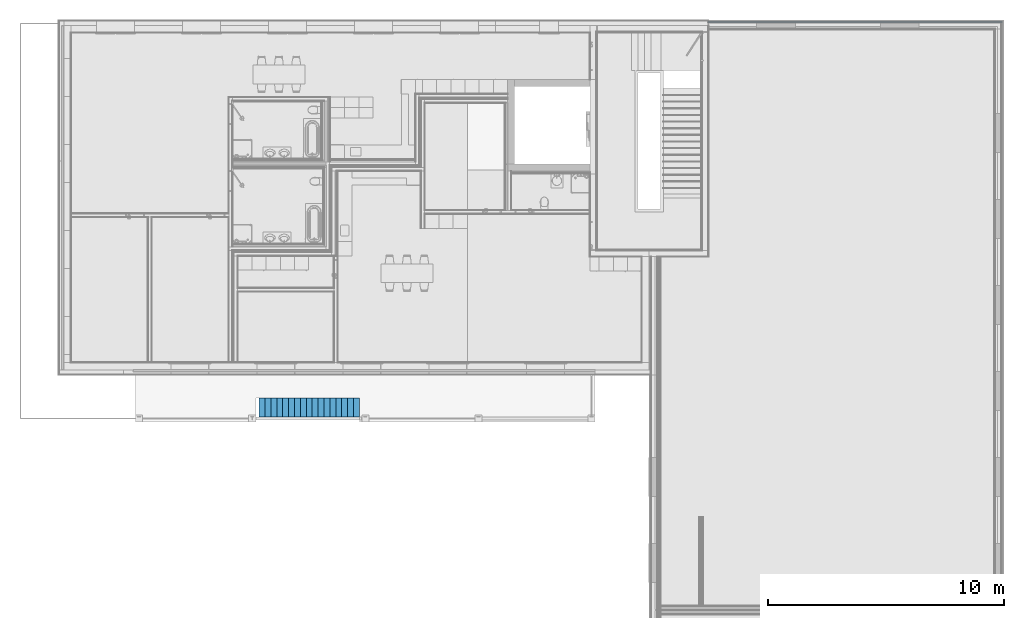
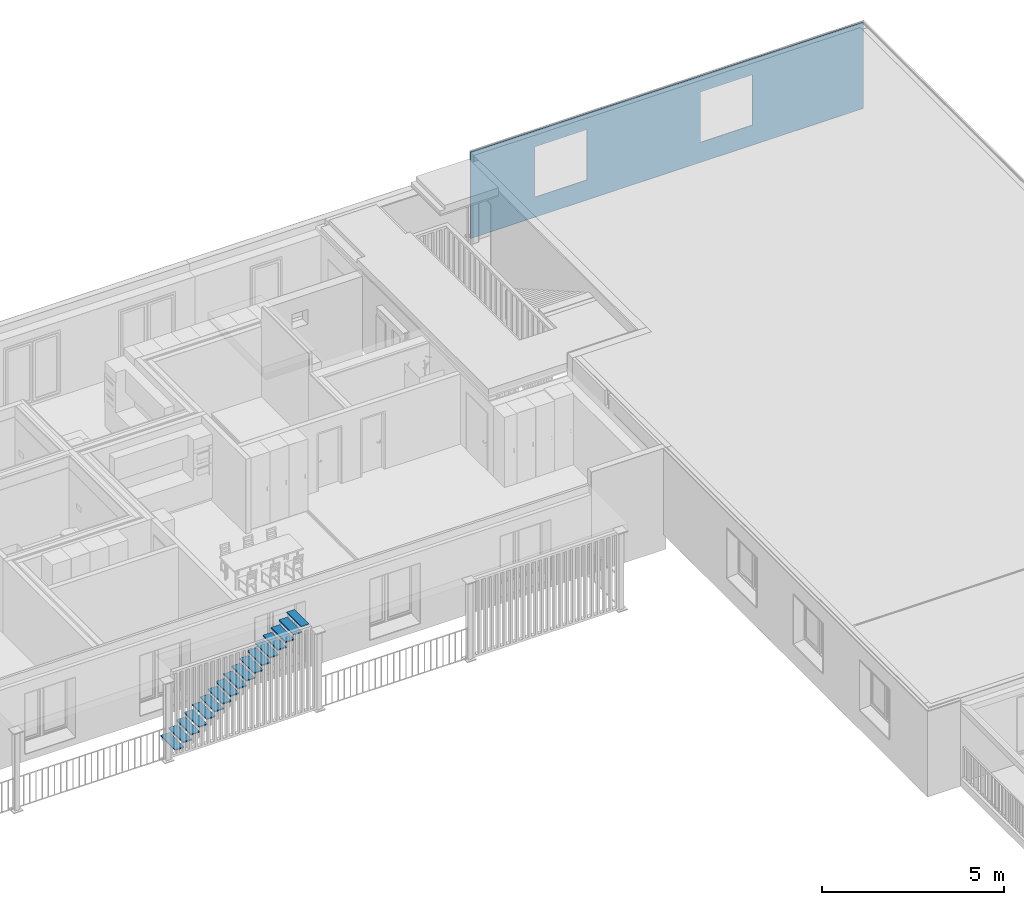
# One storey, part 18 of 34: 18 building element parts, 2 openings, 2 elements without a shape of their own.
"""IFC4 building model written with IfcOpenShell, lengths in millimetres."""

import ifcopenshell
import ifcopenshell.guid

model = None  # the IFC model being written
_history = None  # IfcOwnerHistory: only IFC2X3 demands one
_inside = {}  # id of a spatial element -> (the spatial element, [elements in it])
_under = {}  # id of a project, library or spatial element -> (it, [spatial elements below it])
_declared = {}  # id of a project -> (the project, [libraries it declares])
_typed = {}  # id of a type object -> (the type object, [elements of that type])
_made_of = {}  # id of a material, layer set ... -> (it, [elements and type objects made of it])


def new_model(schema):
    """Start an empty IFC model of exactly this schema.

    Asked for "IFC4X3", IfcOpenShell would pick the latest addendum, in which some entities
    have other attributes; the version numbers below select the first issue.
    IFC2X3 requires an IfcOwnerHistory on every rooted entity: one is made here for all.
    """
    global model, _history
    if schema == "IFC4X3":
        model = ifcopenshell.file(schema_version=(4, 3, 0, 0))
    else:
        model = ifcopenshell.file(schema=schema)
    _inside.clear()
    _under.clear()
    _declared.clear()
    _typed.clear()
    _made_of.clear()
    _history = None
    if model.schema == "IFC2X3":
        org = make("IfcOrganization", Name="unknown")
        user = make(
            "IfcPersonAndOrganization",
            ThePerson=make("IfcPerson", FamilyName="unknown"),
            TheOrganization=org,
        )
        app = make(
            "IfcApplication",
            ApplicationDeveloper=org,
            Version="unknown",
            ApplicationFullName="unknown",
            ApplicationIdentifier="unknown",
        )
        _history = make(
            "IfcOwnerHistory",
            OwningUser=user,
            OwningApplication=app,
            ChangeAction="ADDED",
            CreationDate=0,
        )
    return model


def make(cls, **values):
    """One entity of the class cls with the attributes given. An attribute that is None is left unset."""
    return model.create_entity(
        cls, **{name: value for name, value in values.items() if value is not None}
    )


def entity(cls, *values):
    """Any entity or typed value of the class cls, its attributes in the order of the schema. None: left unset."""
    e = model.create_entity(cls)
    for i, value in enumerate(values):
        if value is not None:
            e[i] = value
    return e


def rooted(cls, **values):
    """An entity with a GlobalId (a new one), such as an element, a storey or a relation."""
    return make(cls, GlobalId=ifcopenshell.guid.new(), OwnerHistory=_history, **values)


def si_unit(unit_type, name, prefix=None):
    """IfcSIUnit, for example si_unit("LENGTHUNIT", "METRE", prefix="MILLI")."""
    return make("IfcSIUnit", UnitType=unit_type, Prefix=prefix, Name=name)


def converted_unit(unit_type, name, factor, base, dimensions=None, offset=None):
    """IfcConversionBasedUnit, such as the inch: factor (a typed value) times the base unit."""
    return make(
        "IfcConversionBasedUnit"
        if offset is None
        else "IfcConversionBasedUnitWithOffset",
        ConversionOffset=offset,
        Dimensions=None
        if dimensions is None
        else entity("IfcDimensionalExponents", *dimensions),
        UnitType=unit_type,
        Name=name,
        ConversionFactor=make(
            "IfcMeasureWithUnit", ValueComponent=factor, UnitComponent=base
        ),
    )


def derived_unit(unit_type, elements):
    """IfcDerivedUnit: a product of units, each with its exponent."""
    return make(
        "IfcDerivedUnit",
        Elements=[
            make("IfcDerivedUnitElement", Unit=unit, Exponent=power)
            for unit, power in elements
        ],
        UnitType=unit_type,
    )


def assignment(units):
    """IfcUnitAssignment: the units of a project."""
    return None if units is None else make("IfcUnitAssignment", Units=units)


def point(xyz):
    """IfcCartesianPoint."""
    return None if xyz is None else make("IfcCartesianPoint", Coordinates=xyz)


def direction(xyz):
    """IfcDirection."""
    return None if xyz is None else make("IfcDirection", DirectionRatios=xyz)


def frame(location, z_axis=None, x_axis=None):
    """IfcAxis2Placement3D, a coordinate frame: its origin and axes. An axis left out is left unset."""
    return make(
        "IfcAxis2Placement3D",
        Location=point(location),
        Axis=direction(z_axis),
        RefDirection=direction(x_axis),
    )


def origin_with_axes():
    """The frame at (0, 0, 0) with the z axis (0, 0, 1) and the x axis (1, 0, 0) written out."""
    return frame((0.0, 0.0, 0.0), z_axis=(0.0, 0.0, 1.0), x_axis=(1.0, 0.0, 0.0))


def place(relative_to, where):
    """IfcLocalPlacement: puts the frame where relative to a parent placement (None: the world)."""
    return make(
        "IfcLocalPlacement", PlacementRelTo=relative_to, RelativePlacement=where
    )


def context(
    kind, dimensions, precision=None, world=None, true_north=None, identifier=None
):
    """IfcGeometricRepresentationContext, for example the 3D "Model" context."""
    return make(
        "IfcGeometricRepresentationContext",
        ContextIdentifier=identifier,
        ContextType=kind,
        CoordinateSpaceDimension=dimensions,
        Precision=precision,
        WorldCoordinateSystem=world,
        TrueNorth=true_north,
    )


def subcontext(parent, identifier, kind, view, scale=None):
    """IfcGeometricRepresentationSubContext, for example "Body" below "Model"."""
    return make(
        "IfcGeometricRepresentationSubContext",
        ContextIdentifier=identifier,
        ContextType=kind,
        ParentContext=parent,
        TargetScale=scale,
        TargetView=view,
    )


def project(units=None, contexts=None):
    """IfcProject with its units and contexts."""
    return rooted(
        "IfcProject",
        Name="project",
        RepresentationContexts=contexts,
        UnitsInContext=assignment(units),
    )


def spatial(cls, under=None, at=None, **own):
    """A site, building, storey or space (cls), placed at a placement, below another one or the project."""
    s = rooted(cls, ObjectPlacement=at, **own)
    if under is not None:
        _under.setdefault(under.id(), (under, []))[1].append(s)
    return s


def point_list(points):
    """IfcCartesianPointList2D or 3D."""
    cls = (
        "IfcCartesianPointList2D" if len(points[0]) == 2 else "IfcCartesianPointList3D"
    )
    return make(cls, CoordList=points)


def polygons(points, faces, closed=None, point_numbers=None):
    """IfcPolygonalFaceSet: a face is its outer loop, then its inner loops; points numbered from 1."""
    made = []
    for loops in faces:
        if len(loops) == 1:
            made.append(make("IfcIndexedPolygonalFace", CoordIndex=loops[0]))
        else:
            made.append(
                make(
                    "IfcIndexedPolygonalFaceWithVoids",
                    CoordIndex=loops[0],
                    InnerCoordIndices=loops[1:],
                )
            )
    return make(
        "IfcPolygonalFaceSet",
        Coordinates=point_list(points),
        Closed=closed,
        Faces=made,
        PnIndex=point_numbers,
    )


def shape(context_of_items, identifier, shape_type, items):
    """IfcShapeRepresentation: the items that make up one representation, for example the "Body"."""
    return make(
        "IfcShapeRepresentation",
        ContextOfItems=context_of_items,
        RepresentationIdentifier=identifier,
        RepresentationType=shape_type,
        Items=items,
    )


def material(Name=None, Category=None):
    """IfcMaterial."""
    return make("IfcMaterial", Name=Name, Category=Category)


def made_of(thing, what):
    """Note that an element or type object is made of a material, layer set ...; save() writes the relation."""
    if what is not None:
        _made_of.setdefault(what.id(), (what, []))[1].append(thing)
    return thing


def type_object(cls, material=None, **own):
    """A type object (cls), such as IfcWallType, which elements share."""
    return made_of(rooted(cls, **own), material)


def element(
    cls,
    number,
    at=None,
    inside=None,
    cuts=None,
    type_object=None,
    material=None,
    context=None,
    identifier="Body",
    shape_type=None,
    held_by="IfcProductDefinitionShape",
    body=None,
    shapes=None,
    **own,
):
    """One element of the class cls, such as IfcWall. Its Tag is "e" and its number.

    at: its placement. inside: the storey or other place that contains it. cuts: it is an
    opening in that element (IfcRelVoidsElement). A single representation is given by context,
    identifier, shape_type and body (its items); several are given by shapes. held_by: the class
    of the entity that holds the representations. save() writes the other relations.
    """
    e = rooted(cls, Tag="e%d" % number, ObjectPlacement=at, **own)
    if body is not None:
        shapes = [shape(context, identifier, shape_type, body)]
    if shapes is not None:
        e.Representation = make(held_by, Representations=shapes)
    if inside is not None:
        _inside.setdefault(inside.id(), (inside, []))[1].append(e)
    if cuts is not None:
        rooted(
            "IfcRelVoidsElement", RelatingBuildingElement=cuts, RelatedOpeningElement=e
        )
    if type_object is not None:
        _typed.setdefault(type_object.id(), (type_object, []))[1].append(e)
    return made_of(e, material)


def aggregate(whole, parts):
    """IfcRelAggregates: a whole, such as a stair, and the parts it consists of."""
    return rooted("IfcRelAggregates", RelatingObject=whole, RelatedObjects=parts)


def save(model, path):
    """Write the relations noted so far, then the file.

    IfcRelAggregates (storeys below a building ...), IfcRelContainedInSpatialStructure (elements
    in a storey), IfcRelDefinesByType, IfcRelAssociatesMaterial and IfcRelDeclares: one each for
    every whole, place, type object, material and project.
    """
    for whole, parts in _under.values():
        aggregate(whole, parts)
    for where, things in _inside.values():
        rooted(
            "IfcRelContainedInSpatialStructure",
            RelatedElements=things,
            RelatingStructure=where,
        )
    for kind, things in _typed.values():
        rooted("IfcRelDefinesByType", RelatedObjects=things, RelatingType=kind)
    for what, things in _made_of.values():
        rooted("IfcRelAssociatesMaterial", RelatedObjects=things, RelatingMaterial=what)
    for by, libraries in _declared.values():
        rooted("IfcRelDeclares", RelatingContext=by, RelatedDefinitions=libraries)
    model.write(path)


model = new_model("IFC4")

# Units and contexts
model_context = context("Model", 3, precision=0.01, world=origin_with_axes(), true_north=direction((0.0, 1.0)))
body_context = subcontext(model_context, "Body", "Model", "MODEL_VIEW")
ifc_project = project(units=[si_unit("LENGTHUNIT", "METRE", prefix="MILLI"), si_unit("AREAUNIT", "SQUARE_METRE"), si_unit("VOLUMEUNIT", "CUBIC_METRE"), converted_unit("PLANEANGLEUNIT", "DEGREE", entity("IfcPlaneAngleMeasure", 0.0174532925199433), si_unit("PLANEANGLEUNIT", "RADIAN"), dimensions=[0, 0, 0, 0, 0, 0, 0]), converted_unit("TIMEUNIT", "Year", entity("IfcTimeMeasure", 31557600.0), si_unit("TIMEUNIT", "SECOND"), dimensions=[0, 0, 1, 0, 0, 0, 0]), si_unit("MASSUNIT", "GRAM", prefix="KILO"), si_unit("THERMODYNAMICTEMPERATUREUNIT", "DEGREE_CELSIUS"), si_unit("LUMINOUSINTENSITYUNIT", "LUMEN"), si_unit("ENERGYUNIT", "JOULE", prefix="MEGA"), derived_unit("THERMALCONDUCTANCEUNIT", [(si_unit("POWERUNIT", "WATT"), 1), (si_unit("LENGTHUNIT", "METRE"), -1), (si_unit("THERMODYNAMICTEMPERATUREUNIT", "KELVIN"), -1)]), derived_unit("SPECIFICHEATCAPACITYUNIT", [(si_unit("ENERGYUNIT", "JOULE"), 1), (si_unit("MASSUNIT", "GRAM", prefix="KILO"), -1), (si_unit("THERMODYNAMICTEMPERATUREUNIT", "KELVIN"), -1)]), derived_unit("MASSDENSITYUNIT", [(si_unit("MASSUNIT", "GRAM", prefix="KILO"), 1), (si_unit("VOLUMEUNIT", "CUBIC_METRE"), -1)])], contexts=[model_context])

# Site, building, storey
site_placement = place(None, origin_with_axes())
site = spatial("IfcSite", under=ifc_project, at=site_placement, Name="Gelände", CompositionType="ELEMENT")
building_placement = place(site_placement, origin_with_axes())
building = spatial("IfcBuilding", under=site, at=building_placement, Name="Gebäude", CompositionType="ELEMENT")
storey_placement = place(building_placement, frame((0.0, 0.0, 5799.999999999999), z_axis=(0.0, 0.0, 1.0), x_axis=(1.0, 0.0, 0.0)))
storey = spatial("IfcBuildingStorey", under=building, at=storey_placement, Name="2.OG", CompositionType="ELEMENT", Elevation=5800.0)

# Curtain wall, openings, building element part
curtain_wall_type = type_object("IfcCurtainWallType", Name="Fassade Typ 02 - Vertikale Schalung 71", PredefinedType="NOTDEFINED")
curtain_wall_placement = place(storey_placement, frame((32928.99744477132, 37947.59728131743, 500.0000000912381), z_axis=(0.0, 0.0, 1.0), x_axis=(-1.0, 0.0, 0.0)))
curtain_wall = element("IfcCurtainWall", 1, at=curtain_wall_placement, inside=storey, type_object=curtain_wall_type, Name="Wand-014", PredefinedType="NOTDEFINED")
opening_1_placement = place(curtain_wall_placement, frame((4391.999999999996, 0.0, 674.9999999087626), z_axis=(0.0, 0.0, 1.0), x_axis=(1.0, 0.0, 0.0)))
element("IfcOpeningElement", 2, at=opening_1_placement, cuts=curtain_wall, Name="Fenster-004", context=body_context, identifier="Reference", shape_type="Tessellation", body=[
    polygons([(-821.0000000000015, -0.9999999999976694, 1690.0), (-821.0000000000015, -0.9999999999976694, 0.0), (821.0000000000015, -0.9999999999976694, 0.0), (821.0000000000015, -0.9999999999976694, 1690.0), (-821.0000000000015, 71.99999999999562, 1690.0), (-821.0000000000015, 71.99999999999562, 0.0), (821.0000000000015, 71.99999999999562, 0.0), (821.0000000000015, 71.99999999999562, 1690.0)], [[[1, 2, 3, 4]], [[5, 6, 2, 1]], [[6, 7, 3, 2]], [[7, 8, 4, 3]], [[8, 5, 1, 4]], [[7, 6, 5, 8]]], closed=True),
])
opening_2_placement = place(curtain_wall_placement, frame((9633.999999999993, 0.0, 674.9999999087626), z_axis=(0.0, 0.0, 1.0), x_axis=(1.0, 0.0, 0.0)))
element("IfcOpeningElement", 3, at=opening_2_placement, cuts=curtain_wall, Name="Fenster-004", context=body_context, identifier="Reference", shape_type="Tessellation", body=[
    polygons([(-821.0000000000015, -0.9999999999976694, 1690.0), (-821.0000000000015, -0.9999999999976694, 0.0), (821.0000000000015, -0.9999999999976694, 0.0), (821.0000000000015, -0.9999999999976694, 1690.0), (-821.0000000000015, 71.99999999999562, 1690.0), (-821.0000000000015, 71.99999999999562, 0.0), (821.0000000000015, 71.99999999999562, 0.0), (821.0000000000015, 71.99999999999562, 1690.0)], [[[1, 2, 3, 4]], [[5, 6, 2, 1]], [[6, 7, 3, 2]], [[7, 8, 4, 3]], [[8, 5, 1, 4]], [[7, 6, 5, 8]]], closed=True),
])
ifc_material_1 = material(Name="Lattenrost vertikal")
building_element_part_1_placement = place(curtain_wall_placement, origin_with_axes())
building_element_part_1 = element("IfcBuildingElementPart", 4, at=building_element_part_1_placement, material=ifc_material_1, Name="Lattenrost vertikal", PredefinedType="NOTDEFINED", context=body_context, shape_type="Tessellation", body=[
    polygons([(71.00000085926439, 71.00001874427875, 9.685926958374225), (45.99999420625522, 46.00000579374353, 7.21799687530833), (12499.9999859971, 45.99999999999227, 7.217686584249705), (12499.99997969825, 71.00314988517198, 9.685926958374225), (45.99999999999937, 70.99999999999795, 7.217997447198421), (45.99999999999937, 45.99999999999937, 0.0), (12500.00000000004, 45.99999999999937, 0.0), (12500.00000000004, 70.99999999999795, 0.0), (45.99999999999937, 70.99999999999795, 0.0)], [[[1, 2, 3, 4]], [[5, 2, 1]], [[3, 2, 6, 7]], [[4, 3, 7, 8]], [[5, 1, 4, 8, 9]], [[2, 5, 9, 6]], [[9, 8, 7, 6]]], closed=True),
    polygons([(45.99999999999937, 70.99999999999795, 10.23497066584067), (45.99999999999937, 70.99999999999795, 2899.99999990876), (12500.00000000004, 70.99999999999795, 2899.99999990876), (12499.99997969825, 71.00314988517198, 42.69563016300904), (71.00000085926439, 71.00001874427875, 42.69563016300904), (68.29999970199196, 70.99999999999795, 42.69563016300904), (68.29999970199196, 70.99999999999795, 12.52688014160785), (5212.999999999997, 70.99999999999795, 2364.999999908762), (3570.999999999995, 70.99999999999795, 2364.999999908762), (3570.999999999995, 70.99999999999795, 674.9999999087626), (5212.999999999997, 70.99999999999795, 674.9999999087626), (10454.99999999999, 71.00314988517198, 674.9999999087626), (10454.99999999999, 71.00314988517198, 2364.999999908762), (8812.99999999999, 71.00314988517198, 2364.999999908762), (8812.99999999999, 71.00314988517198, 674.9999999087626), (45.99999999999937, 45.99999999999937, 2899.99999990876), (45.99999420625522, 46.00000579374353, 10.23497007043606), (12500.00000000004, 45.99999999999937, 2899.99999990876), (12499.99998037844, 68.30314872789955, 42.69563016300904), (12499.9999859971, 45.99999999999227, 10.23464702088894), (12499.99998037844, 68.30314872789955, 12.52688014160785), (68.29999970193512, 68.30001690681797, 42.69563016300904), (68.29999970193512, 68.30001690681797, 12.52688014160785), (3570.999999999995, 46.00000579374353, 2364.999999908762), (5212.999999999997, 46.00000579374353, 2364.999999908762), (3570.999999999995, 46.00000579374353, 674.9999999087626), (5212.999999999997, 46.00000579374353, 674.9999999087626), (10454.99999999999, 45.99999999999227, 674.9999999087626), (10454.99999999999, 45.99999999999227, 2364.999999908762), (8812.99999999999, 45.99999999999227, 2364.999999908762), (8812.99999999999, 45.99999999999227, 674.9999999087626)], [[[1, 2, 3, 4, 5, 6, 7], [8, 9, 10, 11], [12, 13, 14, 15]], [[16, 2, 1, 17]], [[3, 2, 16, 18]], [[19, 4, 3, 18, 20, 21]], [[19, 22, 6, 5, 4]], [[7, 6, 22, 23]], [[1, 7, 23, 17]], [[24, 9, 8, 25]], [[26, 10, 9, 24]], [[27, 11, 10, 26]], [[25, 8, 11, 27]], [[28, 29, 13, 12]], [[29, 30, 14, 13]], [[30, 31, 15, 14]], [[31, 28, 12, 15]], [[18, 16, 17, 20], [26, 24, 25, 27], [28, 31, 30, 29]], [[21, 20, 17, 23]], [[19, 21, 23, 22]]], closed=True),
])
aggregate(curtain_wall, [building_element_part_1])

# Stair, building element parts
stair_type = type_object("IfcStairType", Name="Treppentyp 01 - Metall - Holz", PredefinedType="NOTDEFINED")
stair_placement = place(storey_placement, frame((967.6586056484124, 21069.06207956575, 0.0), z_axis=(0.0, 0.0, 1.0), x_axis=(-0.01941475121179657, 0.9998115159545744, 0.0)))
stair = element("IfcStair", 5, at=stair_placement, inside=storey, type_object=stair_type, Name="Treppe-001", PredefinedType="NOTDEFINED")
ifc_material_2 = material(Name="Massivholz")
building_element_part_2_placement = place(stair_placement, origin_with_axes())
building_element_part_2 = element("IfcBuildingElementPart", 6, at=building_element_part_2_placement, material=ifc_material_2, Name="Massivholz", PredefinedType="NOTDEFINED", context=body_context, shape_type="Tessellation", body=[
    polygons([(879.8492127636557, -455.9051972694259, 130.5882352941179), (79.9999999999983, -440.3733962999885, 130.5882352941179), (79.9999999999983, -440.3733962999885, 170.5882352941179), (879.8492127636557, -455.9051972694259, 170.5882352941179), (874.4130824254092, -735.8524216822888, 130.5882352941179), (74.56386958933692, -720.3206244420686, 130.5882352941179), (74.56386958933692, -720.3206244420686, 170.5882352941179), (874.4130824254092, -735.8524216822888, 170.5882352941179)], [[[1, 2, 3, 4]], [[1, 5, 6, 2]], [[2, 6, 7, 3]], [[4, 3, 7, 8]], [[5, 1, 4, 8]], [[6, 5, 8, 7]]], closed=True),
])
building_element_part_3_placement = place(stair_placement, origin_with_axes())
building_element_part_3 = element("IfcBuildingElementPart", 7, at=building_element_part_3_placement, material=ifc_material_2, Name="Massivholz", PredefinedType="NOTDEFINED", context=body_context, shape_type="Tessellation", body=[
    polygons([(874.9955249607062, -705.8580762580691, 301.1764705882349), (75.14631219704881, -690.3262752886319, 301.1764705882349), (75.14631219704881, -690.3262752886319, 341.176470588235), (874.9955249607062, -705.8580762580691, 341.176470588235), (869.5593946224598, -985.8053006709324, 301.1764705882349), (69.71018178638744, -970.2735034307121, 301.1764705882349), (69.71018178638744, -970.2735034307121, 341.176470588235), (869.5593946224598, -985.8053006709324, 341.176470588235)], [[[1, 2, 3, 4]], [[1, 5, 6, 2]], [[2, 6, 7, 3]], [[4, 3, 7, 8]], [[5, 1, 4, 8]], [[6, 5, 8, 7]]], closed=True),
])
building_element_part_4_placement = place(stair_placement, origin_with_axes())
building_element_part_4 = element("IfcBuildingElementPart", 8, at=building_element_part_4_placement, material=ifc_material_2, Name="Massivholz", PredefinedType="NOTDEFINED", context=body_context, shape_type="Tessellation", body=[
    polygons([(870.1418371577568, -955.8109552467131, 471.7647058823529), (70.29262439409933, -940.2791542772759, 471.7647058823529), (70.29262439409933, -940.2791542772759, 511.7647058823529), (870.1418371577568, -955.8109552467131, 511.7647058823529), (864.7057068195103, -1235.758179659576, 471.7647058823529), (64.85649398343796, -1220.226382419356, 471.7647058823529), (64.85649398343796, -1220.226382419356, 511.7647058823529), (864.7057068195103, -1235.758179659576, 511.7647058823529)], [[[1, 2, 3, 4]], [[1, 5, 6, 2]], [[2, 6, 7, 3]], [[4, 3, 7, 8]], [[5, 1, 4, 8]], [[6, 5, 8, 7]]], closed=True),
])
building_element_part_5_placement = place(stair_placement, origin_with_axes())
building_element_part_5 = element("IfcBuildingElementPart", 9, at=building_element_part_5_placement, material=ifc_material_2, Name="Massivholz", PredefinedType="NOTDEFINED", context=body_context, shape_type="Tessellation", body=[
    polygons([(865.2881493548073, -1205.763834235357, 642.3529411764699), (65.43893659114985, -1190.232033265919, 642.3529411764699), (65.43893659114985, -1190.232033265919, 682.3529411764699), (865.2881493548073, -1205.763834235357, 682.3529411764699), (859.8520190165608, -1485.71105864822, 642.3529411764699), (60.00280618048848, -1470.179261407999, 642.3529411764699), (60.00280618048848, -1470.179261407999, 682.3529411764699), (859.8520190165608, -1485.71105864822, 682.3529411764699)], [[[1, 2, 3, 4]], [[1, 5, 6, 2]], [[2, 6, 7, 3]], [[4, 3, 7, 8]], [[5, 1, 4, 8]], [[6, 5, 8, 7]]], closed=True),
])
building_element_part_6_placement = place(stair_placement, origin_with_axes())
building_element_part_6 = element("IfcBuildingElementPart", 10, at=building_element_part_6_placement, material=ifc_material_2, Name="Massivholz", PredefinedType="NOTDEFINED", context=body_context, shape_type="Tessellation", body=[
    polygons([(860.4344615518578, -1455.716713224, 812.9411764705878), (60.58524878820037, -1440.184912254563, 812.9411764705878), (60.58524878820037, -1440.184912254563, 852.9411764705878), (860.4344615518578, -1455.716713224, 852.9411764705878), (854.9983312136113, -1735.663937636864, 812.9411764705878), (55.149118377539, -1720.132140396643, 812.9411764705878), (55.149118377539, -1720.132140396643, 852.9411764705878), (854.9983312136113, -1735.663937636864, 852.9411764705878)], [[[1, 2, 3, 4]], [[1, 5, 6, 2]], [[2, 6, 7, 3]], [[4, 3, 7, 8]], [[5, 1, 4, 8]], [[6, 5, 8, 7]]], closed=True),
])
building_element_part_7_placement = place(stair_placement, origin_with_axes())
building_element_part_7 = element("IfcBuildingElementPart", 11, at=building_element_part_7_placement, material=ifc_material_2, Name="Massivholz", PredefinedType="NOTDEFINED", context=body_context, shape_type="Tessellation", body=[
    polygons([(855.5807737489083, -1705.669592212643, 983.5294117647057), (55.73156098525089, -1690.137791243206, 983.5294117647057), (55.73156098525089, -1690.137791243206, 1023.529411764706), (855.5807737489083, -1705.669592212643, 1023.529411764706), (850.1446434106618, -1985.616816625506, 983.5294117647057), (50.29543057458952, -1970.085019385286, 983.5294117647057), (50.29543057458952, -1970.085019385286, 1023.529411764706), (850.1446434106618, -1985.616816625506, 1023.529411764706)], [[[1, 2, 3, 4]], [[1, 5, 6, 2]], [[2, 6, 7, 3]], [[4, 3, 7, 8]], [[5, 1, 4, 8]], [[6, 5, 8, 7]]], closed=True),
])
building_element_part_8_placement = place(stair_placement, origin_with_axes())
building_element_part_8 = element("IfcBuildingElementPart", 12, at=building_element_part_8_placement, material=ifc_material_2, Name="Massivholz", PredefinedType="NOTDEFINED", context=body_context, shape_type="Tessellation", body=[
    polygons([(850.7270859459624, -1955.622471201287, 1154.117647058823), (50.87787318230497, -1940.090670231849, 1154.117647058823), (50.87787318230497, -1940.090670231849, 1194.117647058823), (850.7270859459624, -1955.622471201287, 1194.117647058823), (845.2909556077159, -2235.56969561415, 1154.117647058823), (45.44174277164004, -2220.03789837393, 1154.117647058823), (45.44174277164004, -2220.03789837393, 1194.117647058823), (845.2909556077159, -2235.56969561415, 1194.117647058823)], [[[1, 2, 3, 4]], [[1, 5, 6, 2]], [[2, 6, 7, 3]], [[4, 3, 7, 8]], [[5, 1, 4, 8]], [[6, 5, 8, 7]]], closed=True),
])
building_element_part_9_placement = place(stair_placement, origin_with_axes())
building_element_part_9 = element("IfcBuildingElementPart", 13, at=building_element_part_9_placement, material=ifc_material_2, Name="Massivholz", PredefinedType="NOTDEFINED", context=body_context, shape_type="Tessellation", body=[
    polygons([(845.8733981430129, -2205.57535018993, 1324.705882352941), (46.02418537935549, -2190.043549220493, 1324.705882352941), (46.02418537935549, -2190.043549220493, 1364.705882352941), (845.8733981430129, -2205.57535018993, 1364.705882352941), (840.4372678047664, -2485.522574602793, 1324.705882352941), (40.58805496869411, -2469.990777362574, 1324.705882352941), (40.58805496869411, -2469.990777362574, 1364.705882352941), (840.4372678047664, -2485.522574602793, 1364.705882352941)], [[[1, 2, 3, 4]], [[1, 5, 6, 2]], [[2, 6, 7, 3]], [[4, 3, 7, 8]], [[5, 1, 4, 8]], [[6, 5, 8, 7]]], closed=True),
])
building_element_part_10_placement = place(stair_placement, origin_with_axes())
building_element_part_10 = element("IfcBuildingElementPart", 14, at=building_element_part_10_placement, material=ifc_material_2, Name="Massivholz", PredefinedType="NOTDEFINED", context=body_context, shape_type="Tessellation", body=[
    polygons([(841.0197103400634, -2455.528229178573, 1495.294117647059), (41.17049757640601, -2439.996428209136, 1495.294117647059), (41.17049757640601, -2439.996428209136, 1535.294117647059), (841.0197103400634, -2455.528229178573, 1535.294117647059), (835.5835800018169, -2735.475453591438, 1495.294117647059), (35.73436716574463, -2719.943656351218, 1495.294117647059), (35.73436716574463, -2719.943656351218, 1535.294117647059), (835.5835800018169, -2735.475453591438, 1535.294117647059)], [[[1, 2, 3, 4]], [[1, 5, 6, 2]], [[2, 6, 7, 3]], [[4, 3, 7, 8]], [[5, 1, 4, 8]], [[6, 5, 8, 7]]], closed=True),
])
building_element_part_11_placement = place(stair_placement, origin_with_axes())
building_element_part_11 = element("IfcBuildingElementPart", 15, at=building_element_part_11_placement, material=ifc_material_2, Name="Massivholz", PredefinedType="NOTDEFINED", context=body_context, shape_type="Tessellation", body=[
    polygons([(836.1660225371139, -2705.481108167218, 1665.882352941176), (36.31680977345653, -2689.94930719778, 1665.882352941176), (36.31680977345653, -2689.94930719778, 1705.882352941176), (836.1660225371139, -2705.481108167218, 1705.882352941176), (830.7298921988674, -2985.428332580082, 1665.882352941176), (30.88067936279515, -2969.896535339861, 1665.882352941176), (30.88067936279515, -2969.896535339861, 1705.882352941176), (830.7298921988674, -2985.428332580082, 1705.882352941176)], [[[1, 2, 3, 4]], [[1, 5, 6, 2]], [[2, 6, 7, 3]], [[4, 3, 7, 8]], [[5, 1, 4, 8]], [[6, 5, 8, 7]]], closed=True),
])
building_element_part_12_placement = place(stair_placement, origin_with_axes())
building_element_part_12 = element("IfcBuildingElementPart", 16, at=building_element_part_12_placement, material=ifc_material_2, Name="Massivholz", PredefinedType="NOTDEFINED", context=body_context, shape_type="Tessellation", body=[
    polygons([(831.3123347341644, -2955.433987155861, 1836.470588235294), (31.46312197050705, -2939.902186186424, 1836.470588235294), (31.46312197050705, -2939.902186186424, 1876.470588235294), (831.3123347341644, -2955.433987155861, 1876.470588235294), (825.876204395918, -3235.381211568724, 1836.470588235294), (26.02699155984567, -3219.849414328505, 1836.470588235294), (26.02699155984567, -3219.849414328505, 1876.470588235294), (825.876204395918, -3235.381211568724, 1876.470588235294)], [[[1, 2, 3, 4]], [[1, 5, 6, 2]], [[2, 6, 7, 3]], [[4, 3, 7, 8]], [[5, 1, 4, 8]], [[6, 5, 8, 7]]], closed=True),
])
building_element_part_13_placement = place(stair_placement, origin_with_axes())
building_element_part_13 = element("IfcBuildingElementPart", 17, at=building_element_part_13_placement, material=ifc_material_2, Name="Massivholz", PredefinedType="NOTDEFINED", context=body_context, shape_type="Tessellation", body=[
    polygons([(826.458646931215, -3205.386866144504, 2007.058823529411), (26.60943416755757, -3189.855065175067, 2007.058823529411), (26.60943416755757, -3189.855065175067, 2047.058823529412), (826.458646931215, -3205.386866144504, 2047.058823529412), (821.0225165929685, -3485.334090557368, 2007.058823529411), (21.17330375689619, -3469.802293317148, 2007.058823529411), (21.17330375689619, -3469.802293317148, 2047.058823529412), (821.0225165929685, -3485.334090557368, 2047.058823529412)], [[[1, 2, 3, 4]], [[1, 5, 6, 2]], [[2, 6, 7, 3]], [[4, 3, 7, 8]], [[5, 1, 4, 8]], [[6, 5, 8, 7]]], closed=True),
])
building_element_part_14_placement = place(stair_placement, origin_with_axes())
building_element_part_14 = element("IfcBuildingElementPart", 18, at=building_element_part_14_placement, material=ifc_material_2, Name="Massivholz", PredefinedType="NOTDEFINED", context=body_context, shape_type="Tessellation", body=[
    polygons([(821.6049591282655, -3455.339745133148, 2177.647058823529), (21.75574636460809, -3439.807944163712, 2177.647058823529), (21.75574636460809, -3439.807944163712, 2217.647058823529), (821.6049591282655, -3455.339745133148, 2217.647058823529), (816.168828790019, -3735.286969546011, 2177.647058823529), (16.31961595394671, -3719.755172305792, 2177.647058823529), (16.31961595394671, -3719.755172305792, 2217.647058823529), (816.168828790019, -3735.286969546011, 2217.647058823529)], [[[1, 2, 3, 4]], [[1, 5, 6, 2]], [[2, 6, 7, 3]], [[4, 3, 7, 8]], [[5, 1, 4, 8]], [[6, 5, 8, 7]]], closed=True),
])
building_element_part_15_placement = place(stair_placement, origin_with_axes())
building_element_part_15 = element("IfcBuildingElementPart", 19, at=building_element_part_15_placement, material=ifc_material_2, Name="Massivholz", PredefinedType="NOTDEFINED", context=body_context, shape_type="Tessellation", body=[
    polygons([(816.751271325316, -3705.292624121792, 2348.235294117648), (16.90205856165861, -3689.760823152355, 2348.235294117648), (16.90205856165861, -3689.760823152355, 2388.235294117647), (816.751271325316, -3705.292624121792, 2388.235294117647), (811.3151409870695, -3985.239848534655, 2348.235294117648), (11.46592815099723, -3969.708051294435, 2348.235294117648), (11.46592815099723, -3969.708051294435, 2388.235294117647), (811.3151409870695, -3985.239848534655, 2388.235294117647)], [[[1, 2, 3, 4]], [[1, 5, 6, 2]], [[2, 6, 7, 3]], [[4, 3, 7, 8]], [[5, 1, 4, 8]], [[6, 5, 8, 7]]], closed=True),
])
building_element_part_16_placement = place(stair_placement, origin_with_axes())
building_element_part_16 = element("IfcBuildingElementPart", 20, at=building_element_part_16_placement, material=ifc_material_2, Name="Massivholz", PredefinedType="NOTDEFINED", context=body_context, shape_type="Tessellation", body=[
    polygons([(811.8975835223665, -3955.245503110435, 2518.823529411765), (12.04837075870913, -3939.713702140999, 2518.823529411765), (12.04837075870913, -3939.713702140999, 2558.823529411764), (811.8975835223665, -3955.245503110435, 2558.823529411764), (806.46145318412, -4235.192727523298, 2518.823529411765), (6.612240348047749, -4219.660930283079, 2518.823529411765), (6.612240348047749, -4219.660930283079, 2558.823529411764), (806.46145318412, -4235.192727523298, 2558.823529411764)], [[[1, 2, 3, 4]], [[1, 5, 6, 2]], [[2, 6, 7, 3]], [[4, 3, 7, 8]], [[5, 1, 4, 8]], [[6, 5, 8, 7]]], closed=True),
])
building_element_part_17_placement = place(stair_placement, origin_with_axes())
building_element_part_17 = element("IfcBuildingElementPart", 21, at=building_element_part_17_placement, material=ifc_material_2, Name="Massivholz", PredefinedType="NOTDEFINED", context=body_context, shape_type="Tessellation", body=[
    polygons([(807.043895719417, -4205.198382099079, 2689.411764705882), (7.194682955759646, -4189.666581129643, 2689.411764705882), (7.194682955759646, -4189.666581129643, 2729.411764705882), (807.043895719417, -4205.198382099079, 2729.411764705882), (801.6077653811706, -4485.145606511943, 2689.411764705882), (1.758552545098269, -4469.613809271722, 2689.411764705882), (1.758552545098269, -4469.613809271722, 2729.411764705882), (801.6077653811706, -4485.145606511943, 2729.411764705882)], [[[1, 2, 3, 4]], [[1, 5, 6, 2]], [[2, 6, 7, 3]], [[4, 3, 7, 8]], [[5, 1, 4, 8]], [[6, 5, 8, 7]]], closed=True),
])
building_element_part_18_placement = place(stair_placement, origin_with_axes())
building_element_part_18 = element("IfcBuildingElementPart", 22, at=building_element_part_18_placement, material=ifc_material_2, Name="Massivholz", PredefinedType="NOTDEFINED", context=body_context, shape_type="Tessellation", body=[
    polygons([(802.1902079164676, -4455.151261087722, 2860.0), (2.340995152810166, -4439.619460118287, 2860.0), (2.340995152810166, -4439.619460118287, 2899.999999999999), (802.1902079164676, -4455.151261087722, 2899.999999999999), (797.3365201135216, -4705.104140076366, 2860.0), (-2.512692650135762, -4689.57233910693, 2860.0), (-2.512692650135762, -4689.57233910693, 2899.999999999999), (797.3365201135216, -4705.104140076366, 2899.999999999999)], [[[1, 2, 3, 4]], [[1, 5, 6, 2]], [[2, 6, 7, 3]], [[4, 3, 7, 8]], [[5, 1, 4, 8]], [[6, 5, 8, 7]]], closed=True),
])
aggregate(stair, [building_element_part_2, building_element_part_3, building_element_part_4, building_element_part_5, building_element_part_6, building_element_part_7, building_element_part_8, building_element_part_9, building_element_part_10, building_element_part_11, building_element_part_12, building_element_part_13, building_element_part_14, building_element_part_15, building_element_part_16, building_element_part_17, building_element_part_18])

save(model, "model.ifc")
